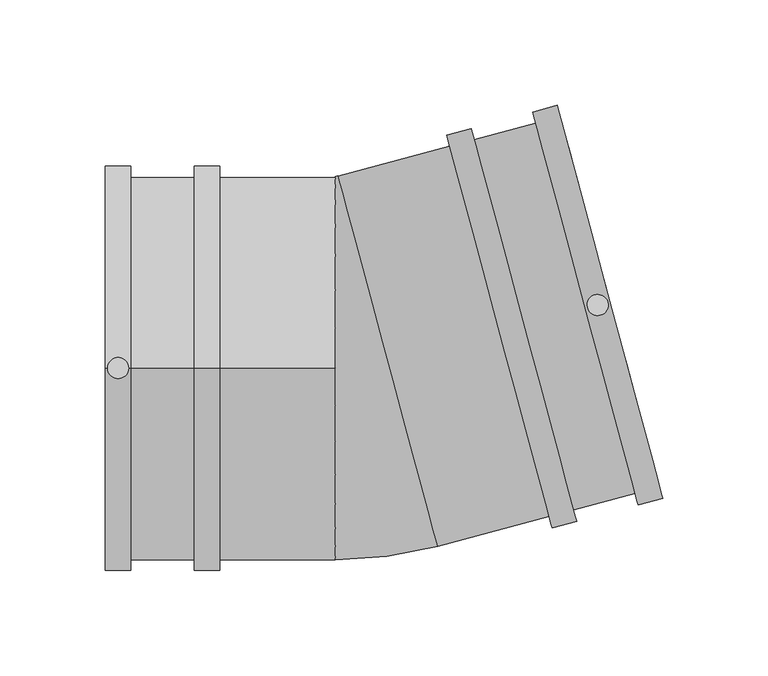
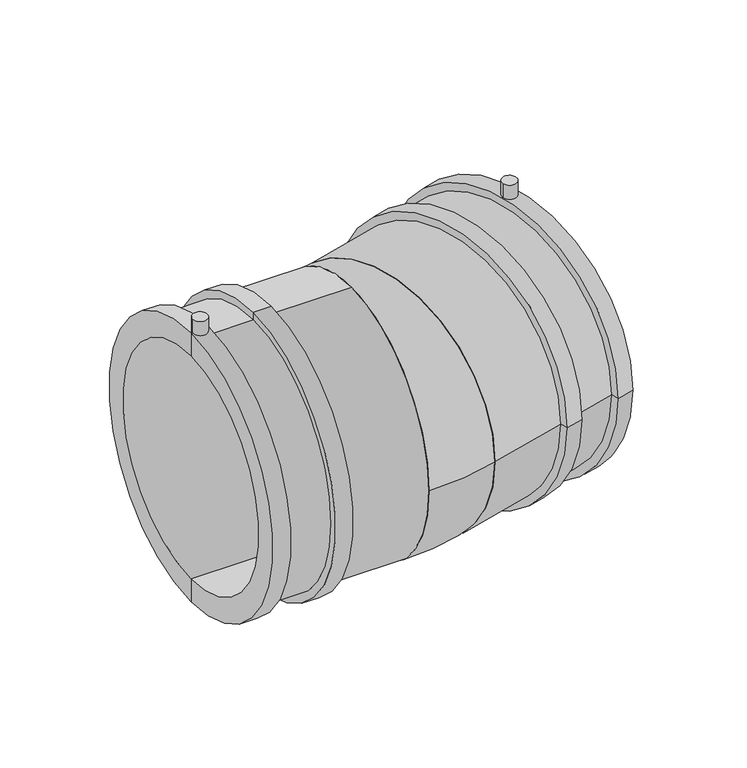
"""IFC4 building model written with IfcOpenShell, lengths in millimetres: pipe fitting geometry, Plumbing_Pipe-Fittings_Plasson_Wastewater-Elbow-15_473704 : Plumbing_Pipe-Fittings_Plasson_Wastewater-Elbow-15_473704."""

from ifc_helpers import new_model, si_unit, point, frame, frame_2d, origin, place, context, project, spatial, polyline, circle_curve, ellipse_curve, trimmed, segment, composite_curve, outline, extrude, source, transform, mapped, element, save
from ifc_brep_helpers import plane_surface, cylinder_surface, revolved_surface, advanced_brep


def pipe_fitting_00af0812(model_context):
    return source(origin(), model_context, "Body", "SolidModel", [
        extrude(outline(composite_curve([segment(trimmed(circle_curve(frame_2d((-115.7176313, 0.0)), 5.0), [point((-120.7176313, 0.0))], [point((-110.7176313, 0.0))], False, "CARTESIAN"), True, "CONTINUOUS"), segment(trimmed(circle_curve(frame_2d((-115.7176313, 0.0)), 5.0), [point((-110.7176313, 0.0))], [point((-120.7176313, 0.0))], False, "CARTESIAN"), True, "CONTINUOUS")], self_intersect=False)), frame((0.0, 0.0, 88.25), z_axis=(0.0, 0.0, 1.0), x_axis=(1.0, 0.0, 0.0)), (0.0, 0.0, 1.0), 17.75),
        extrude(outline(composite_curve([segment(trimmed(circle_curve(frame_2d((111.7746486, 29.9499268)), 5.0), [point((106.9450195, 28.6558316))], [point((116.6042777, 31.2440221))], False, "CARTESIAN"), True, "CONTINUOUS"), segment(trimmed(circle_curve(frame_2d((111.7746486, 29.9499268)), 5.0), [point((116.6042777, 31.2440221))], [point((106.9450195, 28.6558316))], False, "CARTESIAN"), True, "CONTINUOUS")], self_intersect=False)), frame((0.0, 0.0, 88.25), z_axis=(0.0, 0.0, 1.0), x_axis=(1.0, 0.0, 0.0)), (0.0, 0.0, 1.0), 17.75),
        advanced_brep(
        [(138.2757272, -45.771225, 0.0), (96.8646799, 108.7769072, 0.0), (-8.4212351, 80.5656313, 0.0), (32.9898121, -73.9825009, 0.0), (142.5462414, -61.7090011, 0.0), (92.5941657, 124.7146833, 0.0), (130.9551315, -64.8148297, 0.0), (81.0030558, 121.6088548, 0.0), (129.5316267, -59.5022376, 0.0), (82.4265605, 116.2962627, 0.0), (100.3123705, -67.3315138, 0.0), (53.2073043, 108.4669866, 0.0), (90.1609257, -75.7456042, 0.0), (40.20885, 110.6780803, 0.0), (51.7837995, 113.7795787, 0.0), (101.7358752, -72.6441058, 0.0), (-11.2682446, 91.1908154, 0.0), (35.8368216, -84.607685, 0.0), (88.7374209, -70.4330121, 0.0), (41.6323547, 105.3654882, 0.0)],
        [
            (0, 1, circle_curve(frame((117.5702036, 31.5028411, 0.0), z_axis=(0.9659258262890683, 0.25881904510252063, 0.0), x_axis=(-0.25881904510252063, 0.9659258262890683, 0.0)), 80.0)),
            (1, 2),
            (2, 3, circle_curve(frame((12.2842885, 3.2915652, 0.0), z_axis=(-0.9659258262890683, -0.25881904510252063, 0.0), x_axis=(-0.25881904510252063, 0.9659258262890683, 0.0)), 80.0)),
            (3, 0),
            (1, 0, circle_curve(frame((117.5702036, 31.5028411, 0.0), z_axis=(0.9659258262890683, 0.25881904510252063, 0.0), x_axis=(-0.25881904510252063, 0.9659258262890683, 0.0)), 80.0)),
            (3, 2, circle_curve(frame((12.2842885, 3.2915652, 0.0), z_axis=(-0.9659258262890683, -0.25881904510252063, 0.0), x_axis=(-0.25881904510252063, 0.9659258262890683, 0.0)), 80.0)),
            (4, 5, circle_curve(frame((117.5702036, 31.5028411, 0.0), z_axis=(0.9659258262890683, 0.25881904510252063, 0.0), x_axis=(-0.25881904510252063, 0.9659258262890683, 0.0)), 96.5)),
            (5, 1),
            (0, 4),
            (5, 4, circle_curve(frame((117.5702036, 31.5028411, 0.0), z_axis=(0.9659258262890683, 0.25881904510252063, 0.0), x_axis=(-0.25881904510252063, 0.9659258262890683, 0.0)), 96.5)),
            (6, 7, circle_curve(frame((105.9790936, 28.3970126, 0.0), z_axis=(0.9659258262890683, 0.25881904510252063, 0.0), x_axis=(-0.25881904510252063, 0.9659258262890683, 0.0)), 96.5)),
            (7, 5),
            (4, 6),
            (7, 6, circle_curve(frame((105.9790936, 28.3970126, 0.0), z_axis=(0.9659258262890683, 0.25881904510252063, 0.0), x_axis=(-0.25881904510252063, 0.9659258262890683, 0.0)), 96.5)),
            (8, 9, circle_curve(frame((105.9790936, 28.3970126, 0.0), z_axis=(0.9659258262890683, 0.25881904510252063, 0.0), x_axis=(-0.25881904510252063, 0.9659258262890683, 0.0)), 91.0)),
            (9, 7),
            (6, 8),
            (9, 8, circle_curve(frame((105.9790936, 28.3970126, 0.0), z_axis=(0.9659258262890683, 0.25881904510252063, 0.0), x_axis=(-0.25881904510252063, 0.9659258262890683, 0.0)), 91.0)),
            (10, 11, circle_curve(frame((76.7598374, 20.5677364, 0.0), z_axis=(0.9659258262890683, 0.25881904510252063, 0.0), x_axis=(-0.25881904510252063, 0.9659258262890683, 0.0)), 91.0)),
            (11, 9),
            (8, 10),
            (11, 10, circle_curve(frame((76.7598374, 20.5677364, 0.0), z_axis=(0.9659258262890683, 0.25881904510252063, 0.0), x_axis=(-0.25881904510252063, 0.9659258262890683, 0.0)), 91.0)),
            (12, 13, circle_curve(frame((65.1848878, 17.4662381, 0.0), z_axis=(0.9659258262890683, 0.25881904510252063, 0.0), x_axis=(-0.25881904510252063, 0.9659258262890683, 0.0)), 96.5)),
            (13, 14),
            (14, 15, circle_curve(frame((76.7598374, 20.5677364, 0.0), z_axis=(-0.9659258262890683, -0.25881904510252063, 0.0), x_axis=(-0.25881904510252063, 0.9659258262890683, 0.0)), 96.5)),
            (15, 12),
            (13, 12, circle_curve(frame((65.1848878, 17.4662381, 0.0), z_axis=(0.9659258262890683, 0.25881904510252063, 0.0), x_axis=(-0.25881904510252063, 0.9659258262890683, 0.0)), 96.5)),
            (15, 14, circle_curve(frame((76.7598374, 20.5677364, 0.0), z_axis=(-0.9659258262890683, -0.25881904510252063, 0.0), x_axis=(-0.25881904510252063, 0.9659258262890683, 0.0)), 96.5)),
            (2, 16),
            (16, 17, circle_curve(frame((12.2842885, 3.2915652, 0.0), z_axis=(-0.9659258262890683, -0.25881904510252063, 0.0), x_axis=(-0.25881904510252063, 0.9659258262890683, 0.0)), 91.0)),
            (17, 3),
            (17, 16, circle_curve(frame((12.2842885, 3.2915652, 0.0), z_axis=(-0.9659258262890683, -0.25881904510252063, 0.0), x_axis=(-0.25881904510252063, 0.9659258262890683, 0.0)), 91.0)),
            (14, 11),
            (10, 15),
            (18, 19, circle_curve(frame((65.1848878, 17.4662381, 0.0), z_axis=(0.9659258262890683, 0.25881904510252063, 0.0), x_axis=(-0.25881904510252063, 0.9659258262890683, 0.0)), 91.0)),
            (19, 13),
            (12, 18),
            (19, 18, circle_curve(frame((65.1848878, 17.4662381, 0.0), z_axis=(0.9659258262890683, 0.25881904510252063, 0.0), x_axis=(-0.25881904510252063, 0.9659258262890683, 0.0)), 91.0)),
            (16, 19),
            (18, 17),
        ],
        [
            revolved_surface(polyline([(-8.421235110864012, 80.56563128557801, 0.0), (96.8646799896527, 108.77690721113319, 0.0)]), (0.0, 0.0, 0.0), (-0.9659258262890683, -0.25881904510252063, 0.0)),
            plane_surface(frame((117.5702036, 31.5028411, 0.0), z_axis=(0.9659258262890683, 0.25881904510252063, 0.0), x_axis=(-0.25881904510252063, 0.9659258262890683, 0.0))),
            cylinder_surface(frame((0.0, 0.0, 0.0), z_axis=(-0.9659258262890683, -0.25881904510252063, 0.0), x_axis=(-0.25881904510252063, 0.9659258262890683, 0.0)), 96.5),
            plane_surface(frame((105.9790936, 28.3970126, 0.0), z_axis=(-0.9659258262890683, -0.25881904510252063, 0.0), x_axis=(-0.25881904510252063, 0.9659258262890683, 0.0))),
            cylinder_surface(frame((0.0, 0.0, 0.0), z_axis=(-0.9659258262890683, -0.25881904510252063, 0.0), x_axis=(-0.25881904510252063, 0.9659258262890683, 0.0)), 91.0),
            plane_surface(frame((12.2842885, 3.2915652, 0.0), z_axis=(-0.9659258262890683, -0.25881904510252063, 0.0), x_axis=(-0.25881904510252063, 0.9659258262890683, 0.0))),
            plane_surface(frame((76.7598374, 20.5677364, 0.0), z_axis=(0.9659258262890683, 0.25881904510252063, 0.0), x_axis=(-0.25881904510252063, 0.9659258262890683, 0.0))),
            plane_surface(frame((65.1848878, 17.4662381, 0.0), z_axis=(-0.9659258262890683, -0.25881904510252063, 0.0), x_axis=(-0.25881904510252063, 0.9659258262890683, 0.0))),
        ],
        [
            (0, [[1, 2, 3, 4]]),
            (0, [[5, -4, 6, -2]]),
            (1, [[7, 8, -1, 9]]),
            (1, [[10, -9, -5, -8]]),
            (2, [[11, 12, -7, 13]]),
            (2, [[14, -13, -10, -12]]),
            (3, [[15, 16, -11, 17]]),
            (3, [[18, -17, -14, -16]]),
            (4, [[19, 20, -15, 21]]),
            (4, [[22, -21, -18, -20]]),
            (2, [[23, 24, 25, 26]]),
            (2, [[27, -26, 28, -24]]),
            (5, [[-3, 29, 30, 31]]),
            (5, [[-6, -31, 32, -29]]),
            (6, [[-25, 33, -19, 34]]),
            (6, [[-28, -34, -22, -33]]),
            (7, [[35, 36, -23, 37]]),
            (7, [[38, -37, -27, -36]]),
            (4, [[-30, 39, -35, 40]]),
            (4, [[-32, -40, -38, -39]]),
        ],
    ),
        advanced_brep(
        [(-12.7176313, -91.0, 0.0), (-12.7176313, 91.0, 0.0), (35.8368216, -84.607685, 0.0), (-11.2682446, 91.1908154, 0.0)],
        [
            (0, 1, circle_curve(frame((-12.7176313, 0.0, 0.0), z_axis=(-1.0, 0.0, 0.0), x_axis=(0.0, 1.0, 0.0)), 91.0)),
            (1, 0, circle_curve(frame((-12.7176313, 0.0, 0.0), z_axis=(-1.0, 0.0, 0.0), x_axis=(0.0, 1.0, 0.0)), 91.0)),
            (2, 3, circle_curve(frame((12.2842885, 3.2915652, 0.0), z_axis=(0.9659258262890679, 0.25881904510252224, 0.0), x_axis=(-0.25881904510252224, 0.9659258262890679, 0.0)), 91.0)),
            (3, 2, circle_curve(frame((12.2842885, 3.2915652, 0.0), z_axis=(0.9659258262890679, 0.25881904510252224, 0.0), x_axis=(-0.25881904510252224, 0.9659258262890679, 0.0)), 91.0)),
            (3, 1, circle_curve(frame((-12.7176313, 96.6, 0.0), z_axis=(0.0, 0.0, -1.0), x_axis=(0.0, -1.0, 0.0)), 5.6)),
            (0, 2, circle_curve(frame((-12.7176313, 96.6, 0.0), z_axis=(0.0, 0.0, 1.0), x_axis=(0.0, -1.0, 0.0)), 187.6)),
        ],
        [
            plane_surface(frame((-12.7176313, 0.0, 0.0), z_axis=(-1.0, 0.0, 0.0), x_axis=(0.0, 0.0, 1.0))),
            plane_surface(frame((12.2842885, 3.2915652, 0.0), z_axis=(0.9659258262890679, 0.25881904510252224, 0.0), x_axis=(0.0, 0.0, 1.0))),
            revolved_surface(trimmed(ellipse_curve(frame((-12.7176313, 0.0, 0.0), z_axis=(-1.0, 0.0, 0.0), x_axis=(0.0, 1.0, 0.0)), 91.0, 91.0), [point((-12.7176313, -91.0, 0.0))], [point((-12.7176313, 91.0, 0.0))], True, "CARTESIAN"), (-12.7176313, 96.6, 0.0), (0.0, 0.0, 1.0)),
            revolved_surface(trimmed(ellipse_curve(frame((-12.7176313, 0.0, 0.0), z_axis=(-1.0, 0.0, 0.0), x_axis=(0.0, 1.0, 0.0)), 91.0, 91.0), [point((-12.7176313, 91.0, 0.0))], [point((-12.7176313, -91.0, 0.0))], True, "CARTESIAN"), (-12.7176313, 96.6, 0.0), (0.0, 0.0, 1.0)),
        ],
        [
            (0, [[1, 2]]),
            (1, [[3, 4]]),
            (2, [[5, -1, 6, -4]]),
            (3, [[-6, -2, -5, -3]]),
        ],
    ),
        advanced_brep(
        [(-12.7176313, 0.0, -80.0), (-12.7176313, 0.0, 80.0), (-121.7176313, 0.0, 80.0), (-121.7176313, 0.0, -80.0), (-79.4676313, 0.0, -96.5), (-79.4676313, 0.0, 96.5), (-67.4676313, 0.0, 96.5), (-67.4676313, 0.0, -96.5), (-109.7176313, 0.0, -91.0), (-109.7176313, 0.0, 91.0), (-79.4676313, 0.0, 91.0), (-79.4676313, 0.0, -91.0), (-109.7176313, 0.0, -96.5), (-109.7176313, 0.0, 96.5), (-121.7176313, 0.0, -96.5), (-121.7176313, 0.0, 96.5), (-12.7176313, 0.0, -91.0), (-12.7176313, 0.0, 91.0), (-67.4676313, 0.0, -91.0), (-67.4676313, 0.0, 91.0)],
        [
            (0, 1, circle_curve(frame((-12.7176313, 0.0, 0.0), z_axis=(1.0, 0.0, 0.0), x_axis=(0.0, 0.0, 1.0)), 80.0)),
            (1, 2),
            (2, 3, circle_curve(frame((-121.7176313, 0.0, 0.0), z_axis=(-1.0, 0.0, 0.0), x_axis=(0.0, 0.0, 1.0)), 80.0)),
            (3, 0),
            (1, 0, circle_curve(frame((-12.7176313, 0.0, 0.0), z_axis=(1.0, 0.0, 0.0), x_axis=(0.0, 0.0, 1.0)), 80.0)),
            (3, 2, circle_curve(frame((-121.7176313, 0.0, 0.0), z_axis=(-1.0, 0.0, 0.0), x_axis=(0.0, 0.0, 1.0)), 80.0)),
            (4, 5, circle_curve(frame((-79.4676313, 0.0, 0.0), z_axis=(1.0, 0.0, 0.0), x_axis=(0.0, 0.0, 1.0)), 96.5)),
            (5, 6),
            (6, 7, circle_curve(frame((-67.4676313, 0.0, 0.0), z_axis=(-1.0, 0.0, 0.0), x_axis=(0.0, 0.0, 1.0)), 96.5)),
            (7, 4),
            (5, 4, circle_curve(frame((-79.4676313, 0.0, 0.0), z_axis=(1.0, 0.0, 0.0), x_axis=(0.0, 0.0, 1.0)), 96.5)),
            (7, 6, circle_curve(frame((-67.4676313, 0.0, 0.0), z_axis=(-1.0, 0.0, 0.0), x_axis=(0.0, 0.0, 1.0)), 96.5)),
            (8, 9, circle_curve(frame((-109.7176313, 0.0, 0.0), z_axis=(1.0, 0.0, 0.0), x_axis=(0.0, 0.0, 1.0)), 91.0)),
            (9, 10),
            (10, 11, circle_curve(frame((-79.4676313, 0.0, 0.0), z_axis=(-1.0, 0.0, 0.0), x_axis=(0.0, 0.0, 1.0)), 91.0)),
            (11, 8),
            (9, 8, circle_curve(frame((-109.7176313, 0.0, 0.0), z_axis=(1.0, 0.0, 0.0), x_axis=(0.0, 0.0, 1.0)), 91.0)),
            (11, 10, circle_curve(frame((-79.4676313, 0.0, 0.0), z_axis=(-1.0, 0.0, 0.0), x_axis=(0.0, 0.0, 1.0)), 91.0)),
            (12, 13, circle_curve(frame((-109.7176313, 0.0, 0.0), z_axis=(1.0, 0.0, 0.0), x_axis=(0.0, 0.0, 1.0)), 96.5)),
            (13, 9),
            (8, 12),
            (13, 12, circle_curve(frame((-109.7176313, 0.0, 0.0), z_axis=(1.0, 0.0, 0.0), x_axis=(0.0, 0.0, 1.0)), 96.5)),
            (14, 15, circle_curve(frame((-121.7176313, 0.0, 0.0), z_axis=(1.0, 0.0, 0.0), x_axis=(0.0, 0.0, 1.0)), 96.5)),
            (15, 13),
            (12, 14),
            (15, 14, circle_curve(frame((-121.7176313, 0.0, 0.0), z_axis=(1.0, 0.0, 0.0), x_axis=(0.0, 0.0, 1.0)), 96.5)),
            (2, 15),
            (14, 3),
            (16, 17, circle_curve(frame((-12.7176313, 0.0, 0.0), z_axis=(1.0, 0.0, 0.0), x_axis=(0.0, 0.0, 1.0)), 91.0)),
            (17, 1),
            (0, 16),
            (17, 16, circle_curve(frame((-12.7176313, 0.0, 0.0), z_axis=(1.0, 0.0, 0.0), x_axis=(0.0, 0.0, 1.0)), 91.0)),
            (18, 19, circle_curve(frame((-67.4676313, 0.0, 0.0), z_axis=(1.0, 0.0, 0.0), x_axis=(0.0, 0.0, 1.0)), 91.0)),
            (19, 17),
            (16, 18),
            (19, 18, circle_curve(frame((-67.4676313, 0.0, 0.0), z_axis=(1.0, 0.0, 0.0), x_axis=(0.0, 0.0, 1.0)), 91.0)),
            (6, 19),
            (18, 7),
            (10, 5),
            (4, 11),
        ],
        [
            revolved_surface(polyline([(-121.7176313, 0.0, 80.0), (-12.717631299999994, 0.0, 80.0)]), (-121.7176313, 0.0, 0.0), (-1.0, 0.0, 0.0)),
            cylinder_surface(frame((-121.7176313, 0.0, 0.0), z_axis=(-1.0, 0.0, 0.0), x_axis=(0.0, 0.0, 1.0)), 96.5),
            cylinder_surface(frame((-121.7176313, 0.0, 0.0), z_axis=(-1.0, 0.0, 0.0), x_axis=(0.0, 0.0, 1.0)), 91.0),
            plane_surface(frame((-109.7176313, 0.0, 0.0), z_axis=(1.0, 0.0, 0.0), x_axis=(0.0, 0.0, 1.0))),
            plane_surface(frame((-121.7176313, 0.0, 0.0), z_axis=(-1.0, 0.0, 0.0), x_axis=(0.0, 0.0, 1.0))),
            plane_surface(frame((-12.7176313, 0.0, 0.0), z_axis=(1.0, 0.0, 0.0), x_axis=(0.0, 0.0, 1.0))),
            plane_surface(frame((-67.4676313, 0.0, 0.0), z_axis=(1.0, 0.0, 0.0), x_axis=(0.0, 0.0, 1.0))),
            plane_surface(frame((-79.4676313, 0.0, 0.0), z_axis=(-1.0, 0.0, 0.0), x_axis=(0.0, 0.0, 1.0))),
        ],
        [
            (0, [[1, 2, 3, 4]]),
            (0, [[5, -4, 6, -2]]),
            (1, [[7, 8, 9, 10]]),
            (1, [[11, -10, 12, -8]]),
            (2, [[13, 14, 15, 16]]),
            (2, [[17, -16, 18, -14]]),
            (3, [[19, 20, -13, 21]]),
            (3, [[22, -21, -17, -20]]),
            (1, [[23, 24, -19, 25]]),
            (1, [[26, -25, -22, -24]]),
            (4, [[-3, 27, -23, 28]]),
            (4, [[-6, -28, -26, -27]]),
            (5, [[29, 30, -1, 31]]),
            (5, [[32, -31, -5, -30]]),
            (2, [[33, 34, -29, 35]]),
            (2, [[36, -35, -32, -34]]),
            (6, [[-9, 37, -33, 38]]),
            (6, [[-12, -38, -36, -37]]),
            (7, [[-15, 39, -7, 40]]),
            (7, [[-18, -40, -11, -39]]),
        ],
    ),
    ])


if __name__ == "__main__":
    model = new_model("IFC4")
    model_context = context("Model", 3, world=origin())
    ifc_project = project(units=[si_unit("LENGTHUNIT", "METRE", prefix="MILLI")], contexts=[model_context])
    site = spatial("IfcSite", under=ifc_project)
    building = spatial("IfcBuilding", under=site)
    placement = place(None, origin())
    pipe_fitting_shape = pipe_fitting_00af0812(model_context)
    element("IfcPipeFitting", 1, ObjectType="Plumbing_Pipe-Fittings_Plasson_Wastewater-Elbow-15_473704 : Plumbing_Pipe-Fittings_Plasson_Wastewater-Elbow-15_473704", at=placement, inside=building, context=model_context, shape_type="MappedRepresentation", body=[
        mapped(pipe_fitting_shape, transform((0.0, 0.0, 0.0), x_axis=(1.0, 0.0, 0.0), y_axis=(0.0, 1.0, 0.0), z_axis=(0.0, 0.0, 1.0))),
    ])
    save(model, "model.ifc")
